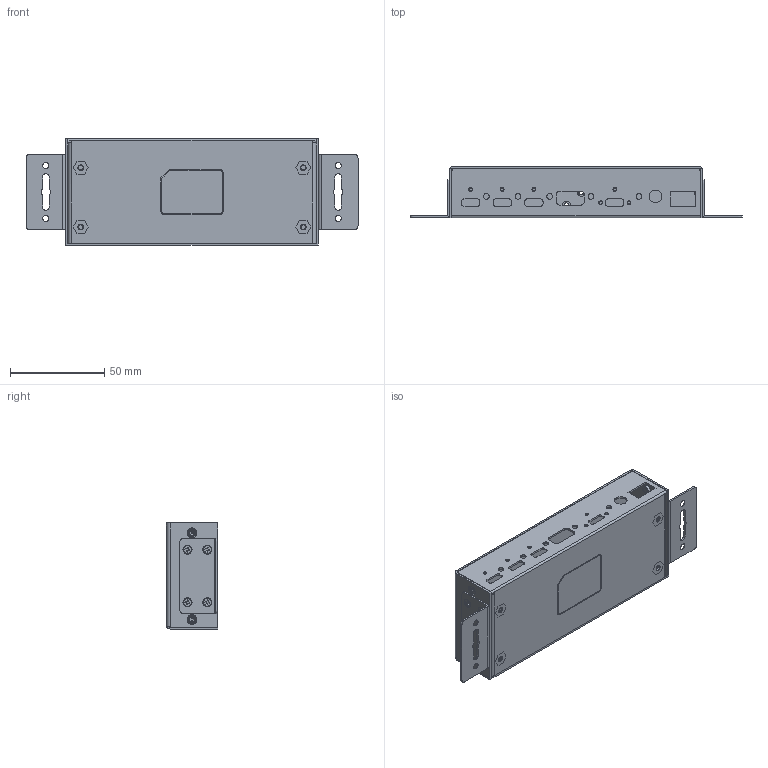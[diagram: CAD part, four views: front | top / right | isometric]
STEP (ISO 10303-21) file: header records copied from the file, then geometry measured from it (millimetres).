
FILE_DESCRIPTION(/* description */ (''),/* implementation_level */ '2;1');
FILE_NAME(/* name */ 'GM-HU34CA-DW_CAD.step',/* time_stamp */ '2024-10-17T15:51:39-04:00',/* author */ (''),/* organization */ (''),/* preprocessor_version */ 'ST-DEVELOPER v20',/* originating_system */ 'Autodesk Translation Framework v13.20.0.188',/* authorisation */ '');
FILE_SCHEMA (('AUTOMOTIVE_DESIGN { 1 0 10303 214 3 1 1 }'));
Length unit declared in the file: millimetre
Products named in the file (8): HUB-CA31_ASM; HUB-CA22-TOP; HUB-CA31-BOT_ASM; BOT; MDZ; HUBPA30-38-F-B; FM3X3_8CCRO-A; FM-3X3_8CCRO
Assembly tree (21 placements, depth 3):
  HUB-CA31_ASM
    HUB-CA22-TOP
    HUB-CA31-BOT_ASM
      BOT
      MDZ  x4
    HUBPA30-38-F-B  x2
    FM3X3_8CCRO-A  x4
    FM-3X3_8CCRO  x8
Bounding box: 176 x 27.2 x 56.2 mm (x, y, z)
Volume: 29818.7 mm3; surface area: 62781.7 mm2
Topology: 24 solids, 47 shells, 695 faces, 1749 edges, 1116 vertices
Faces by surface type: plane 360, cylinder 182, bspline 114, cone 32, torus 7
Full cylindrical faces by diameter (mm): 1.6 x6, 2 x6, 2.5 x19, 2.6 x16, 3 x26, 3.2 x12, 3.5 x8, 4.2 x8, 4.5 x7, 5.3 x4, 6.8 x1
Entity records: 15892 total; most frequent: CARTESIAN_POINT 6897, DIRECTION 1798, ORIENTED_EDGE 1678, EDGE_CURVE 859, AXIS2_PLACEMENT_3D 653, VERTEX_POINT 541, LINE 492, VECTOR 492
